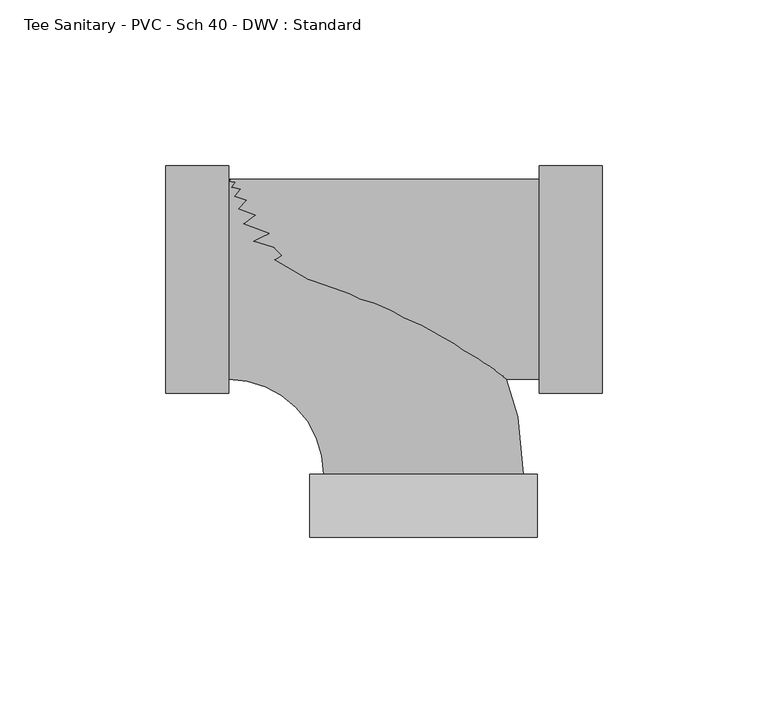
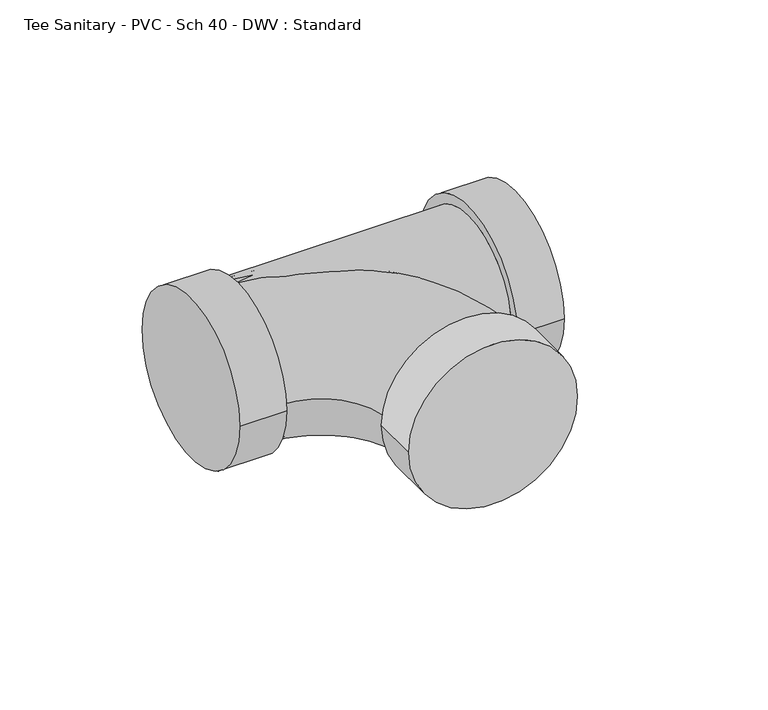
"""IFC4 building model written with IfcOpenShell, lengths in millimetres: pipe fitting geometry, Tee Sanitary - PVC - Sch 40 - DWV : Standard."""

from ifc_helpers import new_model, si_unit, point, frame, origin, place, context, project, spatial, circle_curve, ellipse_curve, trimmed, source, transform, mapped, element, save
from ifc_brep_helpers import plane_surface, cylinder_surface, revolved_surface, advanced_brep


def tee_sanitary_pvc_sch_40_dwv_standard_097eae93(model_context):
    return source(origin(), model_context, "Body", "AdvancedBrep", [
        advanced_brep(
        [(-58.7502, -30.1625, 0.0), (-58.7502, 30.1625, 0.0), (-30.1625, -58.7502, 0.0), (30.1625, -58.7502, 0.0), (34.3154, -77.8002, 0.0), (-34.3154, -77.8002, 0.0), (34.3154, -58.7502, 0.0), (-34.3154, -58.7502, 0.0)],
        [
            (0, 1, circle_curve(frame((-58.7502, 0.0, 0.0), z_axis=(-1.0, 0.0, 0.0), x_axis=(0.0, 1.0, 0.0)), 30.1625)),
            (1, 0, circle_curve(frame((-58.7502, 0.0, 0.0), z_axis=(-1.0, 0.0, 0.0), x_axis=(0.0, 1.0, 0.0)), 30.1625)),
            (0, 2, circle_curve(frame((-58.7502, -58.7502, 0.0), z_axis=(0.0, 0.0, -1.0), x_axis=(0.0, 1.0, 0.0)), 28.5877)),
            (2, 3, circle_curve(frame((0.0, -58.7502, 0.0), z_axis=(-1.0287938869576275e-12, 1.0, 0.0), x_axis=(1.0, 1.0287938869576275e-12, 0.0)), 30.1625)),
            (3, 1, circle_curve(frame((-58.7502, -58.7502, 0.0), z_axis=(0.0, 0.0, 1.0), x_axis=(0.0, 1.0, 0.0)), 88.9127)),
            (3, 2, circle_curve(frame((0.0, -58.7502, 0.0), z_axis=(-1.0287938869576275e-12, 1.0, 0.0), x_axis=(1.0, 1.0287938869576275e-12, 0.0)), 30.1625)),
            (4, 5, circle_curve(frame((0.0, -77.8002, 0.0), z_axis=(0.0, -1.0, 0.0), x_axis=(-1.0, 0.0, 0.0)), 34.3154)),
            (5, 4, circle_curve(frame((0.0, -77.8002, 0.0), z_axis=(0.0, -1.0, 0.0), x_axis=(-1.0, 0.0, 0.0)), 34.3154)),
            (6, 7, circle_curve(frame((0.0, -58.7502, 0.0), z_axis=(0.0, 1.0, 0.0), x_axis=(-1.0, 0.0, 0.0)), 34.3154)),
            (7, 6, circle_curve(frame((0.0, -58.7502, 0.0), z_axis=(0.0, 1.0, 0.0), x_axis=(-1.0, 0.0, 0.0)), 34.3154)),
            (4, 6),
            (7, 5),
        ],
        [
            plane_surface(frame((-58.7502, 0.0, 0.0), z_axis=(-1.0, 0.0, 0.0), x_axis=(0.0, 0.0, 1.0))),
            revolved_surface(trimmed(ellipse_curve(frame((-58.7502, 0.0, 0.0), z_axis=(-1.0, 0.0, 0.0), x_axis=(0.0, 1.0, 0.0)), 30.1625, 30.1625), [point((-58.7502, -30.1625, 0.0))], [point((-58.7502, 30.1625, 0.0))], True, "CARTESIAN"), (-58.7502, -58.7502, 0.0), (0.0, 0.0, -1.0)),
            revolved_surface(trimmed(ellipse_curve(frame((-58.7502, 0.0, 0.0), z_axis=(-1.0, 0.0, 0.0), x_axis=(0.0, 1.0, 0.0)), 30.1625, 30.1625), [point((-58.7502, 30.1625, 0.0))], [point((-58.7502, -30.1625, 0.0))], True, "CARTESIAN"), (-58.7502, -58.7502, 0.0), (0.0, 0.0, -1.0)),
            plane_surface(frame((0.0, -77.8002, 0.0), z_axis=(0.0, -1.0, 0.0), x_axis=(0.0, 0.0, 1.0))),
            plane_surface(frame((0.0, -58.7502, 0.0), z_axis=(0.0, 1.0, 0.0), x_axis=(0.0, 0.0, 1.0))),
            cylinder_surface(frame((0.0, -77.8002, 0.0), z_axis=(0.0, -1.0, 0.0), x_axis=(-1.0, 0.0, 0.0)), 34.3154),
        ],
        [
            (0, [[1, 2]]),
            (1, [[-1, 3, 4, 5]]),
            (2, [[-2, -5, 6, -3]]),
            (3, [[7, 8]]),
            (4, [[9, 10], [-4, -6]]),
            (5, [[-7, 11, -10, 12]]),
            (5, [[-8, -12, -9, -11]]),
        ],
    ),
        advanced_brep(
        [(-58.7502, -30.1625, 0.0), (34.925, -30.1625, 0.0), (34.925, 30.1625, 0.0), (-58.7502, 30.1625, 0.0), (34.925, -34.3154, 0.0), (34.925, 34.3154, 0.0), (53.975, -34.3154, 0.0), (53.975, 34.3154, 0.0), (-77.8002, -34.3154, 0.0), (-77.8002, 34.3154, 0.0), (-58.7502, -34.3154, 0.0), (-58.7502, 34.3154, 0.0)],
        [
            (0, 1),
            (1, 2, circle_curve(frame((34.925, 0.0, 0.0), z_axis=(-1.0, 0.0, 0.0), x_axis=(0.0, 1.0, 0.0)), 30.1625)),
            (2, 3),
            (3, 0, circle_curve(frame((-58.7502, 0.0, 0.0), z_axis=(1.0, 0.0, 0.0), x_axis=(0.0, 1.0, 0.0)), 30.1625)),
            (0, 3, circle_curve(frame((-58.7502, 0.0, 0.0), z_axis=(1.0, 0.0, 0.0), x_axis=(0.0, 1.0, 0.0)), 30.1625)),
            (2, 1, circle_curve(frame((34.925, 0.0, 0.0), z_axis=(-1.0, 0.0, 0.0), x_axis=(0.0, 1.0, 0.0)), 30.1625)),
            (4, 5, circle_curve(frame((34.925, 0.0, 0.0), z_axis=(-1.0, 0.0, 0.0), x_axis=(0.0, 1.0, 0.0)), 34.3154)),
            (5, 4, circle_curve(frame((34.925, 0.0, 0.0), z_axis=(-1.0, 0.0, 0.0), x_axis=(0.0, 1.0, 0.0)), 34.3154)),
            (6, 7, circle_curve(frame((53.975, 0.0, 0.0), z_axis=(1.0, 0.0, 0.0), x_axis=(0.0, 1.0, 0.0)), 34.3154)),
            (7, 6, circle_curve(frame((53.975, 0.0, 0.0), z_axis=(1.0, 0.0, 0.0), x_axis=(0.0, 1.0, 0.0)), 34.3154)),
            (4, 6),
            (7, 5),
            (8, 9, circle_curve(frame((-77.8002, 0.0, 0.0), z_axis=(-1.0, 0.0, 0.0), x_axis=(0.0, 1.0, 0.0)), 34.3154)),
            (9, 8, circle_curve(frame((-77.8002, 0.0, 0.0), z_axis=(-1.0, 0.0, 0.0), x_axis=(0.0, 1.0, 0.0)), 34.3154)),
            (10, 11, circle_curve(frame((-58.7502, 0.0, 0.0), z_axis=(1.0, 0.0, 0.0), x_axis=(0.0, 1.0, 0.0)), 34.3154)),
            (11, 10, circle_curve(frame((-58.7502, 0.0, 0.0), z_axis=(1.0, 0.0, 0.0), x_axis=(0.0, 1.0, 0.0)), 34.3154)),
            (8, 10),
            (11, 9),
        ],
        [
            cylinder_surface(frame((-58.7502, 0.0, 0.0), z_axis=(-1.0, 0.0, 0.0), x_axis=(0.0, 1.0, 0.0)), 30.1625),
            plane_surface(frame((34.925, 0.0, 0.0), z_axis=(-1.0, 0.0, 0.0), x_axis=(0.0, 0.0, 1.0))),
            plane_surface(frame((53.975, 0.0, 0.0), z_axis=(1.0, 0.0, 0.0), x_axis=(0.0, 0.0, 1.0))),
            cylinder_surface(frame((34.925, 0.0, 0.0), z_axis=(-1.0, 0.0, 0.0), x_axis=(0.0, 1.0, 0.0)), 34.3154),
            plane_surface(frame((-77.8002, 0.0, 0.0), z_axis=(-1.0, 0.0, 0.0), x_axis=(0.0, 0.0, 1.0))),
            plane_surface(frame((-58.7502, 0.0, 0.0), z_axis=(1.0, 0.0, 0.0), x_axis=(0.0, 0.0, 1.0))),
            cylinder_surface(frame((-77.8002, 0.0, 0.0), z_axis=(-1.0, 0.0, 0.0), x_axis=(0.0, 1.0, 0.0)), 34.3154),
        ],
        [
            (0, [[1, 2, 3, 4]]),
            (0, [[-1, 5, -3, 6]]),
            (1, [[7, 8], [-2, -6]]),
            (2, [[9, 10]]),
            (3, [[-7, 11, -10, 12]]),
            (3, [[-8, -12, -9, -11]]),
            (4, [[13, 14]]),
            (5, [[15, 16], [-4, -5]]),
            (6, [[-13, 17, -16, 18]]),
            (6, [[-14, -18, -15, -17]]),
        ],
    ),
    ])


if __name__ == "__main__":
    model = new_model("IFC4")
    model_context = context("Model", 3, world=origin())
    ifc_project = project(units=[si_unit("LENGTHUNIT", "METRE", prefix="MILLI")], contexts=[model_context])
    site = spatial("IfcSite", under=ifc_project)
    building = spatial("IfcBuilding", under=site)
    placement = place(None, origin())
    tee_sanitary_pvc_sch_40_dwv_standard_shape = tee_sanitary_pvc_sch_40_dwv_standard_097eae93(model_context)
    element("IfcPipeFitting", 1, ObjectType="Tee Sanitary - PVC - Sch 40 - DWV : Standard", at=placement, inside=building, context=model_context, shape_type="MappedRepresentation", body=[
        mapped(tee_sanitary_pvc_sch_40_dwv_standard_shape, transform((0.0, 0.0, 0.0), x_axis=(1.0, 0.0, 0.0), y_axis=(0.0, 1.0, 0.0), z_axis=(0.0, 0.0, 1.0))),
    ])
    save(model, "model.ifc")
